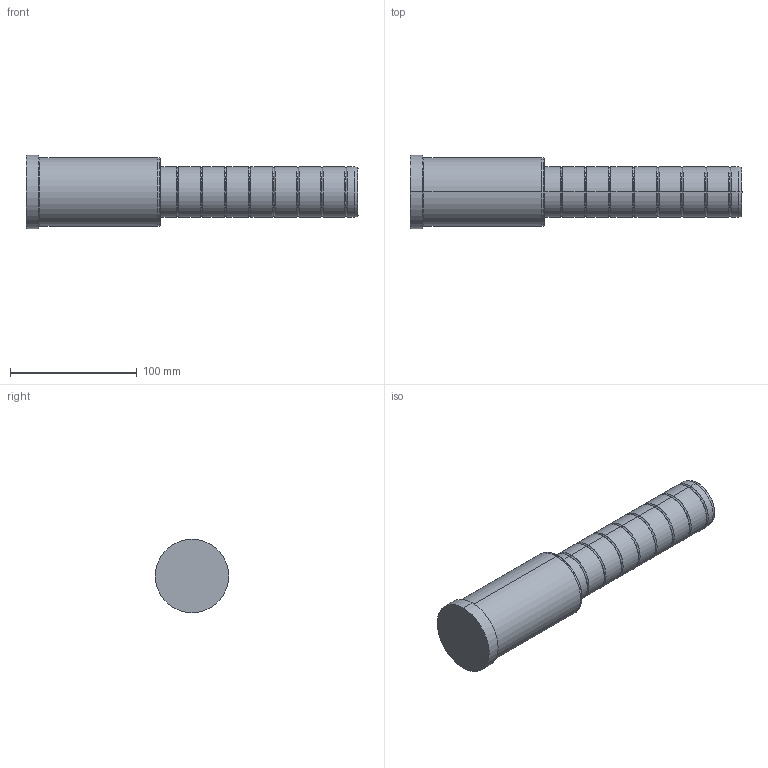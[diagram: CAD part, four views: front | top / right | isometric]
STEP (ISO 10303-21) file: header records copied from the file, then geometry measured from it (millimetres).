
FILE_DESCRIPTION( ( 'STEP AP203' ), '1' );
FILE_NAME( 'C:/Projects/D02 - 40x106x156.step', '2003-01-04T14:09:02', ( ' ' ), ( ' ' ), 'XStep 1.0', ' ', ' ' );
FILE_SCHEMA( ( 'CONFIG_CONTROL_DESIGN' ) );
Length unit declared in the file: metre
Products named in the file (1): 1
Bounding box: 262 x 58 x 58 mm (x, y, z)
Volume: 440752.2 mm3; surface area: 43854.3 mm2
Topology: 1 solids, 1 shells, 72 faces, 142 edges, 76 vertices
Faces by surface type: bspline 42, revolution 30
Entity records: 2315 total; most frequent: CARTESIAN_POINT 1017, ORIENTED_EDGE 284, DIRECTION 214, EDGE_CURVE 142, AXIS2_PLACEMENT_3D 77, EDGE_LOOP 76, VERTEX_POINT 76, CIRCLE 76
